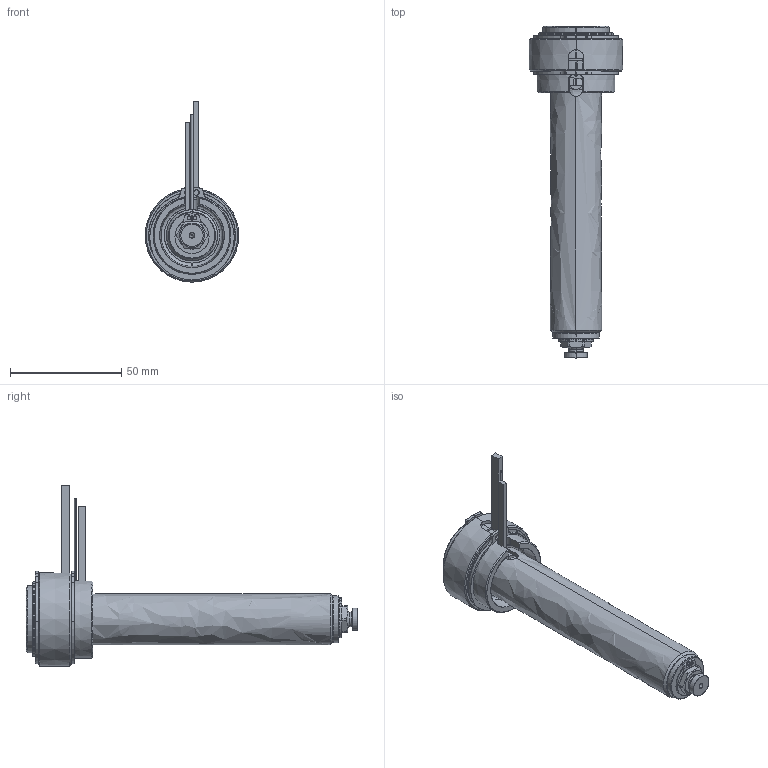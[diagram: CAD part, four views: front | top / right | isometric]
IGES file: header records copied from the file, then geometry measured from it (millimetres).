
Start section: SolidWorks IGES file using analytic representation for surfaces
Global section: file name: C:\Users\luca.EMPAD\Desktop\TEM\UGBE3503-M-A-5 [Ød-1.0 P-0 ØC-7.0].IGS; native system: SolidWorks 2012; preprocessor: SolidWorks 2012; author: luca; date: 120330.140457; units: millimetre
Bounding box: 42 x 149 x 80.9 mm (x, y, z)
Surface area: 37007.7 mm2 (no closed solid volume)
Topology: 0 solids, 0 shells, 185 faces, 3322 edges, 3322 vertices
Faces by surface type: revolution 118, bspline 67
